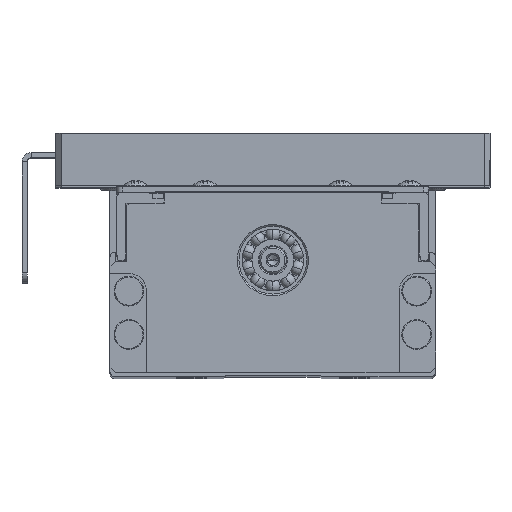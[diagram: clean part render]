
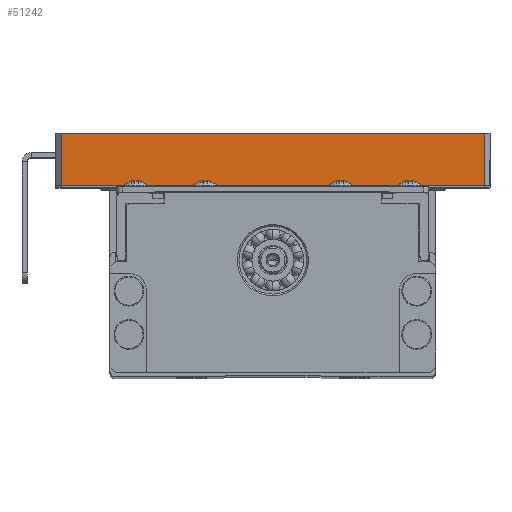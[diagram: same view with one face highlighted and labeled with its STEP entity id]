
A CAD part, top view. The second image highlights one B-rep face of the part: STEP entity #51242.
In plain terms, the highlighted planar face has unit normal (0, 0, 1).
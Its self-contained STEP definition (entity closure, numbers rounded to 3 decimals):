
#778 = LINE ( 'NONE', #45733, #29508 ) ;
#1323 = VERTEX_POINT ( 'NONE', #56532 ) ;
#3207 = DIRECTION ( 'NONE',  ( 0., -1., 0. ) ) ;
#3501 = CARTESIAN_POINT ( 'NONE',  ( -40., 36.3, 40. ) ) ;
#4707 = VERTEX_POINT ( 'NONE', #39109 ) ;
#10299 = VECTOR ( 'NONE', #17138, 1000. ) ;
#12055 = VECTOR ( 'NONE', #3207, 1000. ) ;
#12754 = CARTESIAN_POINT ( 'NONE',  ( -39., 36.3, 40. ) ) ;
#16026 = EDGE_CURVE ( 'NONE', #33568, #27138, #778, .T. ) ;
#16901 = FACE_OUTER_BOUND ( 'NONE', #20218, .T. ) ;
#17138 = DIRECTION ( 'NONE',  ( -1., 0., 0. ) ) ;
#18200 = EDGE_CURVE ( 'NONE', #1323, #4707, #30466, .T. ) ;
#18734 = AXIS2_PLACEMENT_3D ( 'NONE', #39233, #25012, #42993 ) ;
#20218 = EDGE_LOOP ( 'NONE', ( #40192, #34281, #38471, #55098 ) ) ;
#21022 = CARTESIAN_POINT ( 'NONE',  ( 39., 46., 40. ) ) ;
#21518 = PLANE ( 'NONE',  #18734 ) ;
#25012 = DIRECTION ( 'NONE',  ( 0., 0., 1. ) ) ;
#27138 = VERTEX_POINT ( 'NONE', #52277 ) ;
#29508 = VECTOR ( 'NONE', #36173, 1000. ) ;
#30028 = LINE ( 'NONE', #21022, #38343 ) ;
#30466 = LINE ( 'NONE', #3501, #10299 ) ;
#33568 = VERTEX_POINT ( 'NONE', #39317 ) ;
#34281 = ORIENTED_EDGE ( 'NONE', *, *, #41344, .T. ) ;
#36173 = DIRECTION ( 'NONE',  ( 1., 0., 0. ) ) ;
#38343 = VECTOR ( 'NONE', #47710, 1000. ) ;
#38471 = ORIENTED_EDGE ( 'NONE', *, *, #16026, .F. ) ;
#39109 = CARTESIAN_POINT ( 'NONE',  ( -39., 36.3, 40. ) ) ;
#39233 = CARTESIAN_POINT ( 'NONE',  ( 0., 46., 40. ) ) ;
#39317 = CARTESIAN_POINT ( 'NONE',  ( -39., 46., 40. ) ) ;
#40192 = ORIENTED_EDGE ( 'NONE', *, *, #18200, .F. ) ;
#41344 = EDGE_CURVE ( 'NONE', #1323, #27138, #30028, .T. ) ;
#42993 = DIRECTION ( 'NONE',  ( 1., 0., 0. ) ) ;
#45733 = CARTESIAN_POINT ( 'NONE',  ( 40., 46., 40. ) ) ;
#47710 = DIRECTION ( 'NONE',  ( 0., 1., 0. ) ) ;
#47831 = LINE ( 'NONE', #12754, #12055 ) ;
#48926 = EDGE_CURVE ( 'NONE', #33568, #4707, #47831, .T. ) ;
#51242 = ADVANCED_FACE ( 'NONE', ( #16901 ), #21518, .T. ) ;
#52277 = CARTESIAN_POINT ( 'NONE',  ( 39., 46., 40. ) ) ;
#55098 = ORIENTED_EDGE ( 'NONE', *, *, #48926, .T. ) ;
#56532 = CARTESIAN_POINT ( 'NONE',  ( 39., 36.3, 40. ) ) ;
